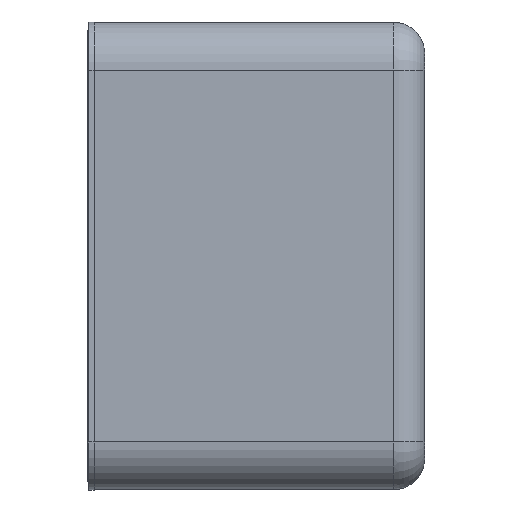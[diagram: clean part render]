
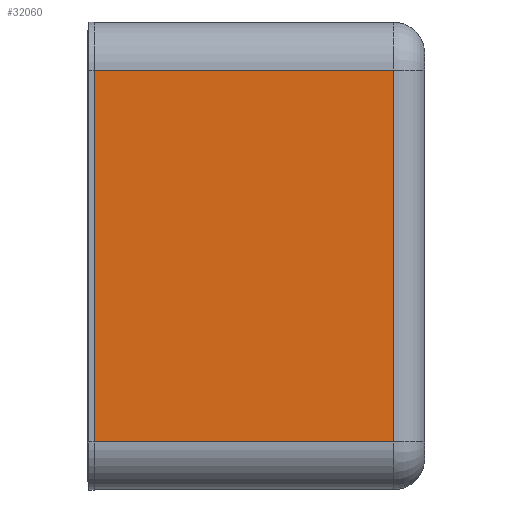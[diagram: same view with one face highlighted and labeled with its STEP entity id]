
A CAD part, left-side view. The second image highlights one B-rep face of the part: STEP entity #32060.
In plain terms, the highlighted planar face has unit normal (-1, 0, 0).
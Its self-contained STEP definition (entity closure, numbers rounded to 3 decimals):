
#16071 = CARTESIAN_POINT ( 'NONE',  ( -21.495, 0., -5.906 ) ) ;
#16915 = VERTEX_POINT ( 'NONE', #16071 ) ;
#20786 = EDGE_CURVE ( 'NONE', #232493, #279579, #339014, .T. ) ;
#21520 = LINE ( 'NONE', #367896, #158991 ) ;
#22417 = CARTESIAN_POINT ( 'NONE',  ( -21.495, 0.215, -5.906 ) ) ;
#32060 = ADVANCED_FACE ( 'NONE', ( #406270 ), #251798, .F. ) ;
#59362 = DIRECTION ( 'NONE',  ( 0., 0., 1. ) ) ;
#65043 = EDGE_CURVE ( 'NONE', #16915, #232493, #351155, .T. ) ;
#69846 = CARTESIAN_POINT ( 'NONE',  ( -21.495, -9.5, -5.906 ) ) ;
#82100 = DIRECTION ( 'NONE',  ( 0., 0., 1. ) ) ;
#87117 = DIRECTION ( 'NONE',  ( 0., 0., -1. ) ) ;
#88652 = CARTESIAN_POINT ( 'NONE',  ( -21.495, -9.5, -5.906 ) ) ;
#106610 = ORIENTED_EDGE ( 'NONE', *, *, #195292, .F. ) ;
#129986 = CARTESIAN_POINT ( 'NONE',  ( -21.495, 0.215, -5.906 ) ) ;
#131773 = VECTOR ( 'NONE', #59362, 39.37 ) ;
#141734 = EDGE_CURVE ( 'NONE', #306789, #279579, #366209, .T. ) ;
#143059 = CARTESIAN_POINT ( 'NONE',  ( -21.495, 0.215, 5.906 ) ) ;
#158991 = VECTOR ( 'NONE', #82100, 39.37 ) ;
#188756 = ORIENTED_EDGE ( 'NONE', *, *, #141734, .F. ) ;
#195292 = EDGE_CURVE ( 'NONE', #16915, #306789, #21520, .T. ) ;
#224742 = VECTOR ( 'NONE', #270253, 39.37 ) ;
#225419 = CARTESIAN_POINT ( 'NONE',  ( -21.495, 0., 5.906 ) ) ;
#227045 = AXIS2_PLACEMENT_3D ( 'NONE', #22417, #404221, #87117 ) ;
#232493 = VERTEX_POINT ( 'NONE', #69846 ) ;
#251798 = PLANE ( 'NONE',  #227045 ) ;
#270253 = DIRECTION ( 'NONE',  ( 0., -1., 0. ) ) ;
#279579 = VERTEX_POINT ( 'NONE', #406349 ) ;
#306789 = VERTEX_POINT ( 'NONE', #225419 ) ;
#309114 = VECTOR ( 'NONE', #382450, 39.37 ) ;
#339014 = LINE ( 'NONE', #88652, #131773 ) ;
#347429 = ORIENTED_EDGE ( 'NONE', *, *, #65043, .T. ) ;
#351155 = LINE ( 'NONE', #129986, #309114 ) ;
#361856 = ORIENTED_EDGE ( 'NONE', *, *, #20786, .T. ) ;
#366209 = LINE ( 'NONE', #143059, #224742 ) ;
#367896 = CARTESIAN_POINT ( 'NONE',  ( -21.495, 0., -5.906 ) ) ;
#382450 = DIRECTION ( 'NONE',  ( 0., -1., 0. ) ) ;
#403681 = EDGE_LOOP ( 'NONE', ( #347429, #361856, #188756, #106610 ) ) ;
#404221 = DIRECTION ( 'NONE',  ( 1., 0., 0. ) ) ;
#406270 = FACE_OUTER_BOUND ( 'NONE', #403681, .T. ) ;
#406349 = CARTESIAN_POINT ( 'NONE',  ( -21.495, -9.5, 5.906 ) ) ;
